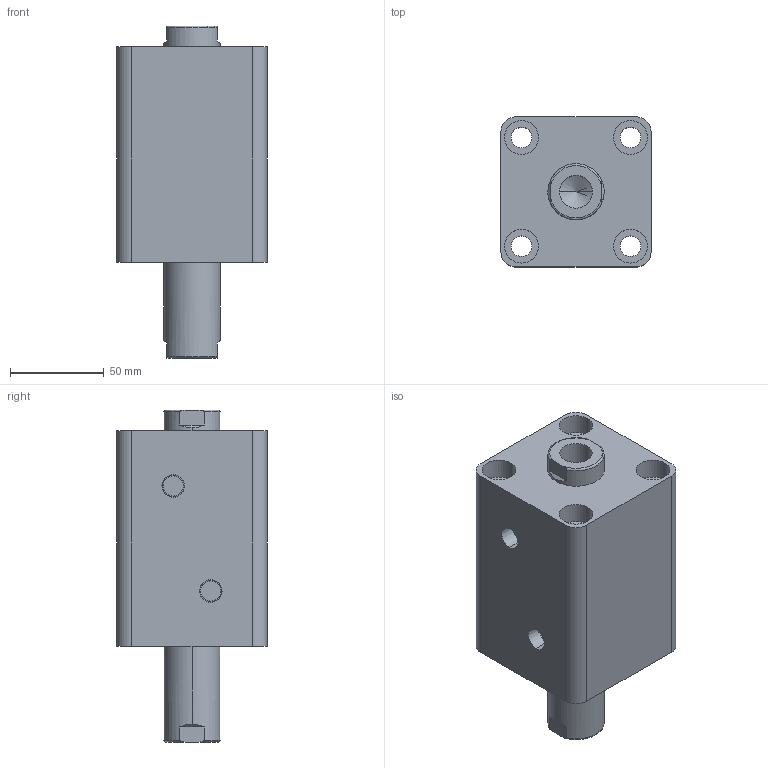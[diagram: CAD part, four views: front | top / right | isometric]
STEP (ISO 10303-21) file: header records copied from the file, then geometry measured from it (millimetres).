
FILE_DESCRIPTION (( 'STEP AP203' ), '1' );
FILE_NAME ('HTB-SW50-40N.STEP', '2019-10-07T09:19:54', ( '微软用户' ), ( '微软中国' ), 'SwSTEP 2.0', 'SolidWorks 2012', '' );
FILE_SCHEMA (( 'CONFIG_CONTROL_DESIGN' ));
Length unit declared in the file: millimetre
Products named in the file (3): HTB-SW50-40N; HTB-SW50-40N活塞杆; HTB-SW50-40掛极
Assembly tree (2 placements, depth 2):
  HTB-SW50-40N
    HTB-SW50-40掛极
    HTB-SW50-40N活塞杆
Bounding box: 80 x 80 x 177 mm (x, y, z)
Volume: 650117 mm3; surface area: 106077.8 mm2
Topology: 2 solids, 2 shells, 100 faces, 228 edges, 146 vertices
Faces by surface type: cylinder 48, plane 32, torus 12, cone 8
Entity records: 3237 total; most frequent: CARTESIAN_POINT 595, DIRECTION 542, ORIENTED_EDGE 448, AXIS2_PLACEMENT_3D 229, EDGE_CURVE 224, VERTEX_POINT 146, EDGE_LOOP 128, CIRCLE 124
